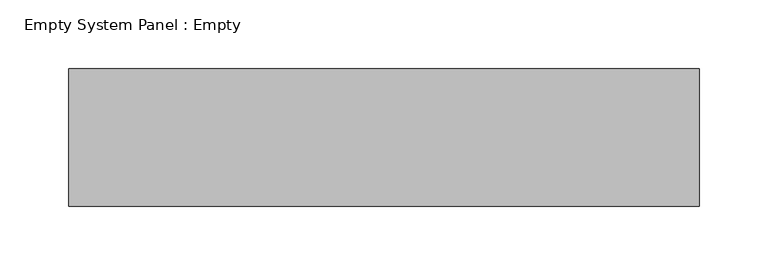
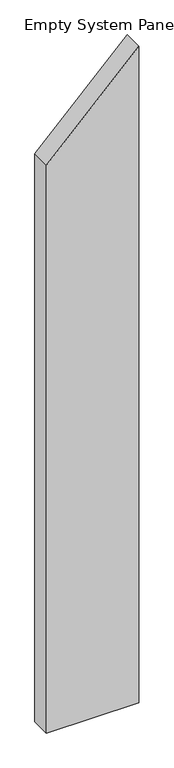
"""IFC4 building model written with IfcOpenShell, lengths in millimetres: plate geometry, Empty System Panel : Empty."""

from ifc_helpers import new_model, si_unit, frame, origin, place, context, project, spatial, polyline, outline, extrude, source, transform, mapped, element, save


def empty_system_panel_empty_0b05d41c(model_context):
    return source(origin(), model_context, "Body", "SweptSolid", [
        extrude(outline(polyline([(0.0, -229.6046705), (0.0, 229.6046705), (3456.4498421, 229.6046705), (2992.1031331, -229.6046705), (0.0, -229.6046705)])), frame((0.0, -50.0, 0.0), z_axis=(0.0, 1.0, 0.0), x_axis=(0.0, 0.0, 1.0)), (0.0, 0.0, 1.0), 100.0),
    ])


if __name__ == "__main__":
    model = new_model("IFC4")
    model_context = context("Model", 3, world=origin())
    ifc_project = project(units=[si_unit("LENGTHUNIT", "METRE", prefix="MILLI")], contexts=[model_context])
    site = spatial("IfcSite", under=ifc_project)
    building = spatial("IfcBuilding", under=site)
    placement = place(None, origin())
    empty_system_panel_empty_shape = empty_system_panel_empty_0b05d41c(model_context)
    element("IfcPlate", 1, ObjectType="Empty System Panel : Empty", at=placement, inside=building, context=model_context, shape_type="MappedRepresentation", body=[
        mapped(empty_system_panel_empty_shape, transform((0.0, 0.0, 0.0), x_axis=(1.0, 0.0, 0.0), y_axis=(0.0, 1.0, 0.0), z_axis=(0.0, 0.0, 1.0))),
    ])
    save(model, "model.ifc")
